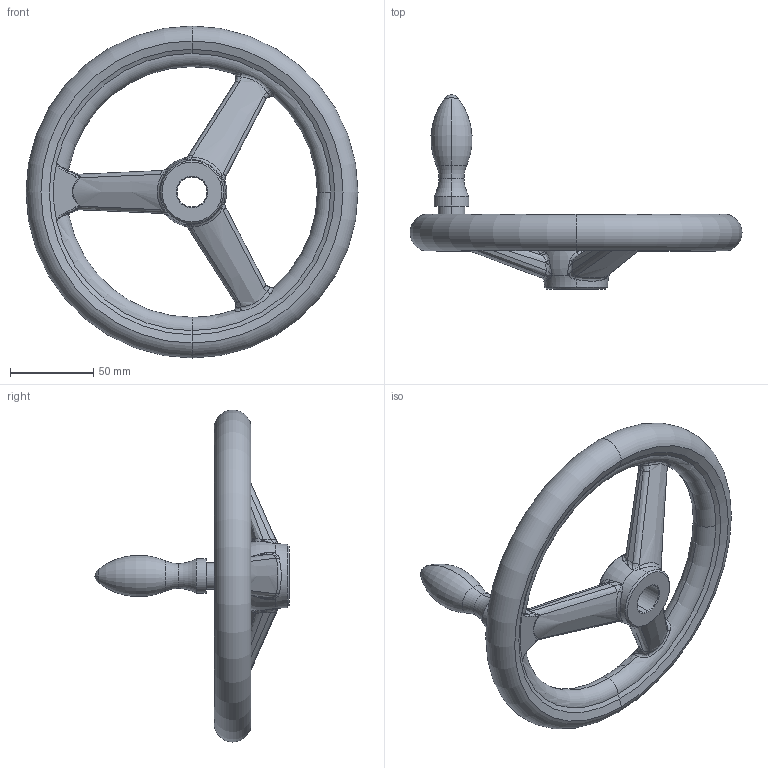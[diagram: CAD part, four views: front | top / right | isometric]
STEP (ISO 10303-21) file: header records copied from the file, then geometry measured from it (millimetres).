
FILE_DESCRIPTION (( 'STEP AP203' ), '1' );
FILE_NAME ('din950_d4_200x18.step', '2010-03-23T10:15:35', ( '_' ), ( '_' ), 'SwSTEP 2.0', 'SolidWorks 2010', '' );
FILE_SCHEMA (( 'CONFIG_CONTROL_DESIGN' ));
Length unit declared in the file: millimetre
Products named in the file (1): din950_d4_200x18
Bounding box: 200 x 117 x 200 mm (x, y, z)
Volume: 315180.2 mm3; surface area: 60368.3 mm2
Topology: 1 solids, 1 shells, 233 faces, 567 edges, 304 vertices
Faces by surface type: bspline 164, torus 28, cone 17, cylinder 11, plane 11, sphere 2
Entity records: 26902 total; most frequent: CARTESIAN_POINT 22528, ORIENTED_EDGE 1078, DIRECTION 589, EDGE_CURVE 539, VERTEX_POINT 304, B_SPLINE_CURVE_WITH_KNOTS 297, AXIS2_PLACEMENT_3D 281, EDGE_LOOP 237
